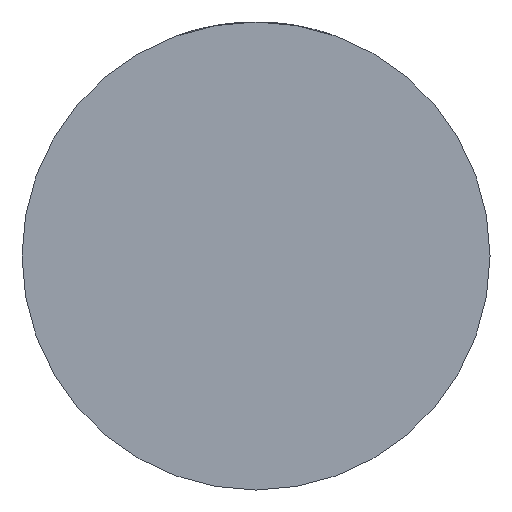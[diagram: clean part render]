
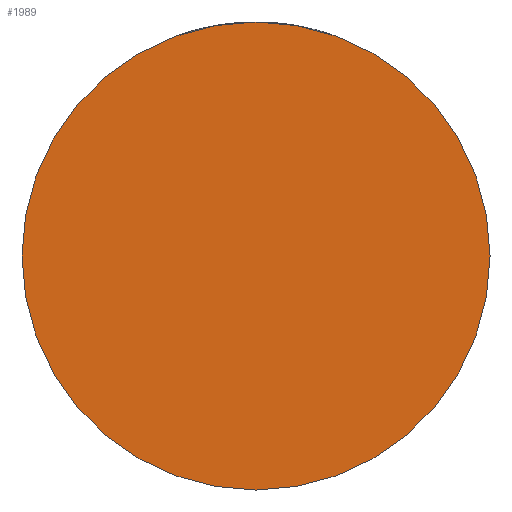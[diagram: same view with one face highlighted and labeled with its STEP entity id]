
A CAD part, front view. The second image highlights one B-rep face of the part: STEP entity #1989.
In plain terms, the highlighted planar face has unit normal (0, -1, 0).
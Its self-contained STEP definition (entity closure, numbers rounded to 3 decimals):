
#111 = DIRECTION ( 'NONE',  ( 1., 0., 0. ) ) ;
#399 = VERTEX_POINT ( 'NONE', #3806 ) ;
#425 = EDGE_CURVE ( 'NONE', #399, #4015, #486, .T. ) ;
#486 = CIRCLE ( 'NONE', #2951, 26.5 ) ;
#1234 = DIRECTION ( 'NONE',  ( 1., 0., 0. ) ) ;
#1418 = CARTESIAN_POINT ( 'NONE',  ( 0., -22., 0. ) ) ;
#1603 = CARTESIAN_POINT ( 'NONE',  ( -26.5, -22., 0. ) ) ;
#1989 = ADVANCED_FACE ( 'NONE', ( #2208 ), #4186, .T. ) ;
#2107 = DIRECTION ( 'NONE',  ( 1., 0., 0. ) ) ;
#2208 = FACE_OUTER_BOUND ( 'NONE', #3886, .T. ) ;
#2273 = DIRECTION ( 'NONE',  ( 0., -1., 0. ) ) ;
#2412 = DIRECTION ( 'NONE',  ( 0., -1., 0. ) ) ;
#2423 = ORIENTED_EDGE ( 'NONE', *, *, #425, .T. ) ;
#2436 = CARTESIAN_POINT ( 'NONE',  ( 0., -22., 0. ) ) ;
#2732 = ORIENTED_EDGE ( 'NONE', *, *, #4163, .T. ) ;
#2951 = AXIS2_PLACEMENT_3D ( 'NONE', #1418, #4103, #111 ) ;
#3193 = CIRCLE ( 'NONE', #3551, 26.5 ) ;
#3543 = CARTESIAN_POINT ( 'NONE',  ( 0., -22., 0. ) ) ;
#3551 = AXIS2_PLACEMENT_3D ( 'NONE', #2436, #2412, #2107 ) ;
#3605 = AXIS2_PLACEMENT_3D ( 'NONE', #3543, #2273, #1234 ) ;
#3806 = CARTESIAN_POINT ( 'NONE',  ( 26.5, -22., 0. ) ) ;
#3886 = EDGE_LOOP ( 'NONE', ( #2732, #2423 ) ) ;
#4015 = VERTEX_POINT ( 'NONE', #1603 ) ;
#4103 = DIRECTION ( 'NONE',  ( 0., -1., 0. ) ) ;
#4163 = EDGE_CURVE ( 'NONE', #4015, #399, #3193, .T. ) ;
#4186 = PLANE ( 'NONE',  #3605 ) ;
